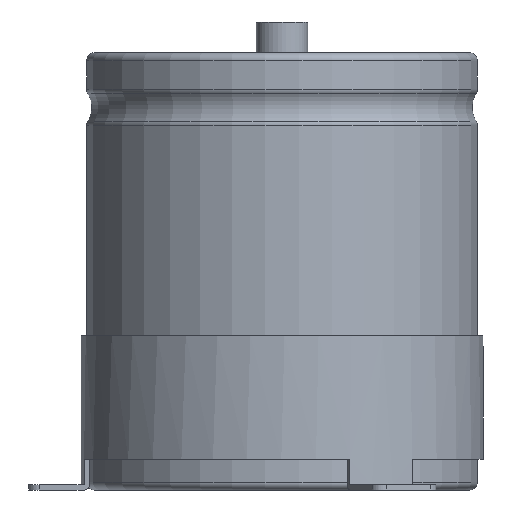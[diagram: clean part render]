
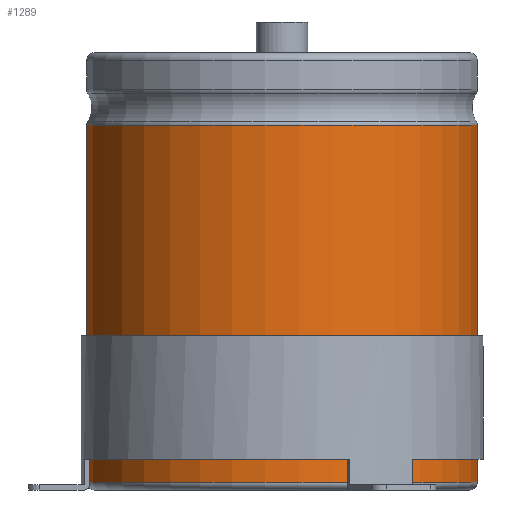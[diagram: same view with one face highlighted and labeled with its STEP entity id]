
A CAD part, front view. The second image highlights one B-rep face of the part: STEP entity #1289.
In plain terms, the highlighted cylindrical face has radius 38.1 mm (diameter 76.2 mm), a partial arc.
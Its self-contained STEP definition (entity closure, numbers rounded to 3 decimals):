
#233=LINE('',#6601,#447);
#234=LINE('',#6605,#448);
#447=VECTOR('',#5224,1.);
#448=VECTOR('',#5227,1.);
#695=FACE_OUTER_BOUND('',#1741,.T.);
#1289=ADVANCED_FACE('',(#695),#1519,.T.);
#1519=CYLINDRICAL_SURFACE('',#4585,38.1);
#1741=EDGE_LOOP('',(#2147,#2148,#2149,#2150));
#2147=ORIENTED_EDGE('',*,*,#3702,.T.);
#2148=ORIENTED_EDGE('',*,*,#3703,.T.);
#2149=ORIENTED_EDGE('',*,*,#3704,.F.);
#2150=ORIENTED_EDGE('',*,*,#3705,.F.);
#3274=VERTEX_POINT('',#6594);
#3276=VERTEX_POINT('',#6598);
#3277=VERTEX_POINT('',#6602);
#3278=VERTEX_POINT('',#6604);
#3702=EDGE_CURVE('',#3274,#3276,#4267,.T.);
#3703=EDGE_CURVE('',#3276,#3277,#233,.T.);
#3704=EDGE_CURVE('',#3278,#3277,#4268,.T.);
#3705=EDGE_CURVE('',#3274,#3278,#234,.T.);
#4267=CIRCLE('',#4582,38.1);
#4268=CIRCLE('',#4584,38.1);
#4582=AXIS2_PLACEMENT_3D('',#6599,#5220,#5221);
#4584=AXIS2_PLACEMENT_3D('',#6603,#5225,#5226);
#4585=AXIS2_PLACEMENT_3D('',#6606,#5228,#5229);
#5220=DIRECTION('',(0.,0.,-1.));
#5221=DIRECTION('',(0.,1.,0.));
#5224=DIRECTION('',(0.,0.,-1.));
#5225=DIRECTION('',(0.,0.,-1.));
#5226=DIRECTION('',(0.,1.,0.));
#5227=DIRECTION('',(0.,0.,-1.));
#5228=DIRECTION('',(0.,0.,-1.));
#5229=DIRECTION('',(0.,1.,0.));
#6594=CARTESIAN_POINT('',(3.983,37.891,70.9));
#6598=CARTESIAN_POINT('',(-3.983,37.891,70.9));
#6599=CARTESIAN_POINT('',(0.,0.,70.9));
#6601=CARTESIAN_POINT('',(-3.983,37.891,70.9));
#6602=CARTESIAN_POINT('',(-3.983,37.891,1.5));
#6603=CARTESIAN_POINT('',(0.,0.,1.5));
#6604=CARTESIAN_POINT('',(3.983,37.891,1.5));
#6605=CARTESIAN_POINT('',(3.983,37.891,70.9));
#6606=CARTESIAN_POINT('',(0.,0.,0.));
